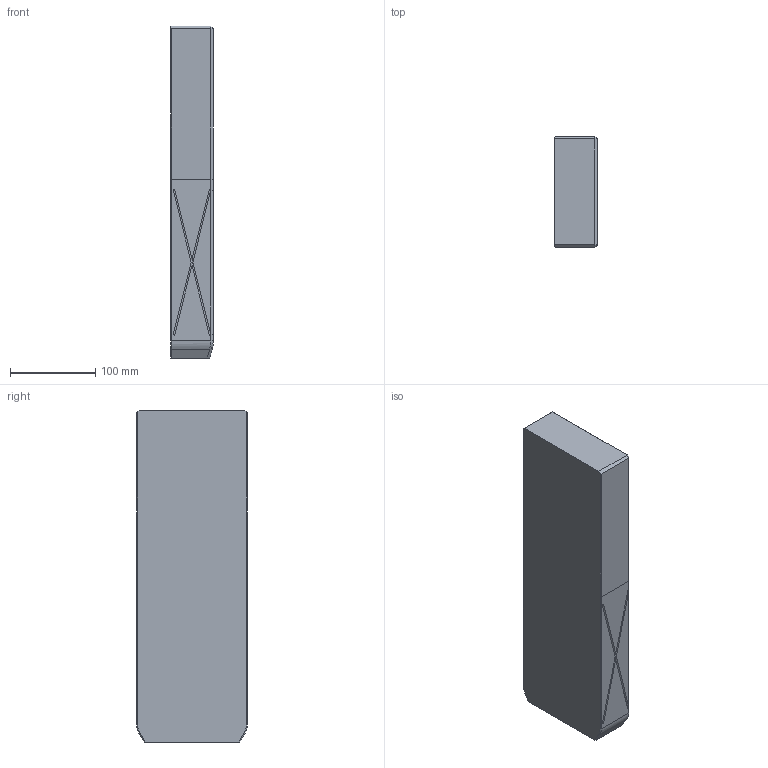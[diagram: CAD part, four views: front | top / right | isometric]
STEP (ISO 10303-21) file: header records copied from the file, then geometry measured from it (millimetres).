
FILE_DESCRIPTION((''),'2;1');
FILE_NAME('','2010-08-30T17:54:52+09:00',('misumi'),(''),'M/STEP i/f 1R2-14','CADmeister v5.1','');
FILE_SCHEMA(('AUTOMOTIVE_DESIGN'));
Length unit declared in the file: millimetre
Products named in the file (1): GW130-210-390
Bounding box: 50 x 130 x 390 mm (x, y, z)
Volume: 2514608.5 mm3; surface area: 152135.8 mm2
Topology: 1 solids, 1 shells, 74 faces, 199 edges, 117 vertices
Faces by surface type: plane 37, cylinder 17, revolution 12, bspline 6, cone 2
Entity records: 3487 total; most frequent: CARTESIAN_POINT 817, ORIENTED_EDGE 374, DIRECTION 353, COLOUR_RGB 202, CURVE_STYLE 195, PRESENTATION_STYLE_ASSIGNMENT 194, OVER_RIDING_STYLED_ITEM 193, EDGE_CURVE 187
